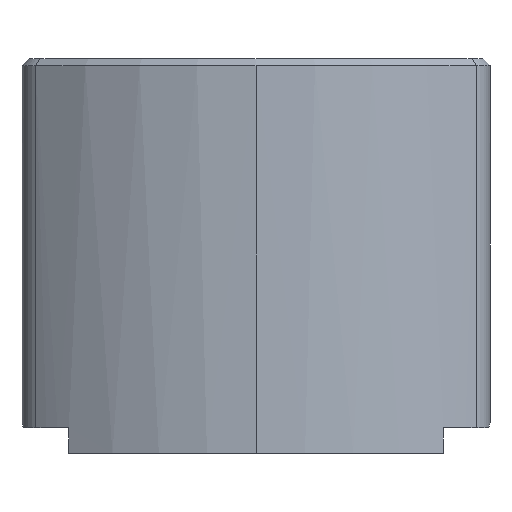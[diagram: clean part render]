
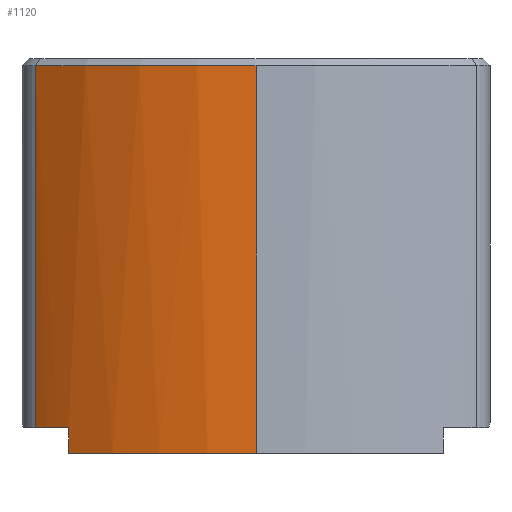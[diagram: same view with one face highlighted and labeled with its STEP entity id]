
A CAD part, left-side view. The second image highlights one B-rep face of the part: STEP entity #1120.
In plain terms, the highlighted cylindrical face has radius 15.4 mm (diameter 30.8 mm), a partial arc.
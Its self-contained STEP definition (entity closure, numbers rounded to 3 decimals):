
#671=CARTESIAN_POINT('Vertex',(-13.159,8.,-16.875)) ;
#676=CARTESIAN_POINT('Line Origine',(-13.159,8.,-16.325)) ;
#680=CARTESIAN_POINT('Vertex',(-13.159,8.,-15.775)) ;
#741=CARTESIAN_POINT('Vertex',(-15.4,0.,-16.875)) ;
#744=CARTESIAN_POINT('Axis2P3D Location',(0.,0.,-16.875)) ;
#827=CARTESIAN_POINT('Axis2P3D Location',(0.,0.,-15.775)) ;
#831=CARTESIAN_POINT('Vertex',(-12.185,9.417,-15.775)) ;
#1075=CARTESIAN_POINT('Line Origine',(-12.185,9.417,-8.438)) ;
#1079=CARTESIAN_POINT('Vertex',(-12.185,9.417,-0.3)) ;
#1095=CARTESIAN_POINT('Axis2P3D Location',(0.,0.,-10.)) ;
#1100=CARTESIAN_POINT('Line Origine',(-15.4,0.,-10.)) ;
#1104=CARTESIAN_POINT('Vertex',(-15.4,0.,-0.3)) ;
#1107=CARTESIAN_POINT('Axis2P3D Location',(0.,0.,-0.3)) ;
#678=VECTOR('Line Direction',#677,1.) ;
#1077=VECTOR('Line Direction',#1076,1.) ;
#1102=VECTOR('Line Direction',#1101,1.) ;
#677=DIRECTION('Vector Direction',(0.,0.,1.)) ;
#745=DIRECTION('Axis2P3D Direction',(0.,0.,-1.)) ;
#828=DIRECTION('Axis2P3D Direction',(0.,0.,-1.)) ;
#1076=DIRECTION('Vector Direction',(0.,0.,-1.)) ;
#1096=DIRECTION('Axis2P3D Direction',(0.,0.,-1.)) ;
#1097=DIRECTION('Axis2P3D XDirection',(-1.,0.,0.)) ;
#1101=DIRECTION('Vector Direction',(0.,0.,-1.)) ;
#1108=DIRECTION('Axis2P3D Direction',(0.,0.,-1.)) ;
#746=AXIS2_PLACEMENT_3D('Circle Axis2P3D',#744,#745,$) ;
#829=AXIS2_PLACEMENT_3D('Circle Axis2P3D',#827,#828,$) ;
#1098=AXIS2_PLACEMENT_3D('Cylinder Axis2P3D',#1095,#1096,#1097) ;
#1109=AXIS2_PLACEMENT_3D('Circle Axis2P3D',#1107,#1108,$) ;
#679=LINE('Line',#676,#678) ;
#1078=LINE('Line',#1075,#1077) ;
#1103=LINE('Line',#1100,#1102) ;
#747=CIRCLE('generated circle',#746,15.4) ;
#830=CIRCLE('generated circle',#829,15.4) ;
#1110=CIRCLE('generated circle',#1109,15.4) ;
#1099=CYLINDRICAL_SURFACE('generated cylinder',#1098,15.4) ;
#682=EDGE_CURVE('',#672,#681,#679,.T.) ;
#748=EDGE_CURVE('',#742,#672,#747,.T.) ;
#833=EDGE_CURVE('',#681,#832,#830,.T.) ;
#1081=EDGE_CURVE('',#1080,#832,#1078,.T.) ;
#1106=EDGE_CURVE('',#742,#1105,#1103,.F.) ;
#1111=EDGE_CURVE('',#1080,#1105,#1110,.F.) ;
#1113=ORIENTED_EDGE('',*,*,#1081,.T.) ;
#1114=ORIENTED_EDGE('',*,*,#833,.F.) ;
#1115=ORIENTED_EDGE('',*,*,#682,.F.) ;
#1116=ORIENTED_EDGE('',*,*,#748,.F.) ;
#1117=ORIENTED_EDGE('',*,*,#1106,.T.) ;
#1118=ORIENTED_EDGE('',*,*,#1111,.F.) ;
#1112=EDGE_LOOP('',(#1113,#1114,#1115,#1116,#1117,#1118)) ;
#672=VERTEX_POINT('',#671) ;
#681=VERTEX_POINT('',#680) ;
#742=VERTEX_POINT('',#741) ;
#832=VERTEX_POINT('',#831) ;
#1080=VERTEX_POINT('',#1079) ;
#1105=VERTEX_POINT('',#1104) ;
#1120=ADVANCED_FACE('\X2\FF8AFF9FFF70FF82\X0\ \X2\FF8EFF9EFF83FF9EFF68FF70\X0\',(#1119),#1099,.T.) ;
#1119=FACE_OUTER_BOUND('',#1112,.T.) ;
